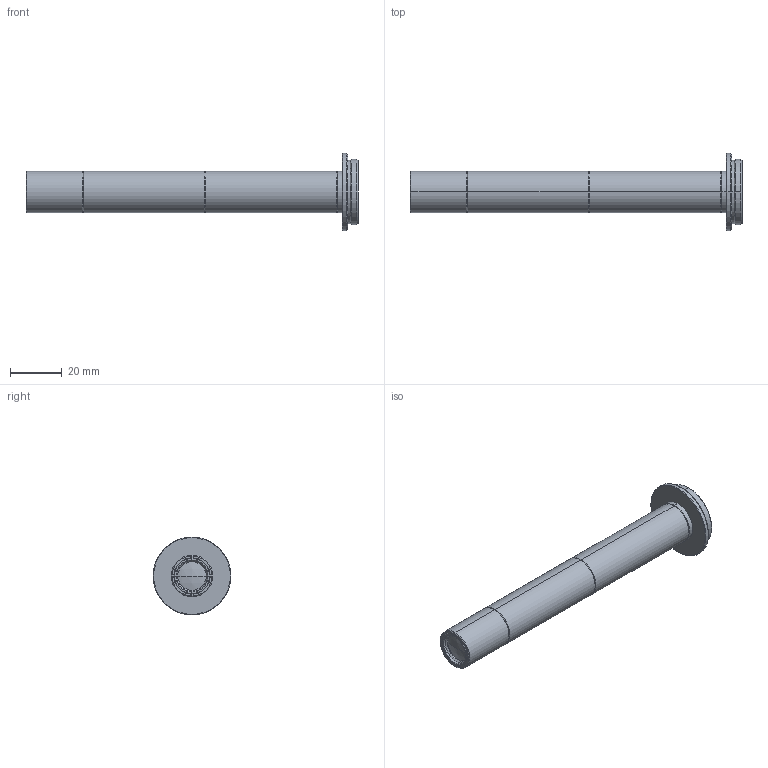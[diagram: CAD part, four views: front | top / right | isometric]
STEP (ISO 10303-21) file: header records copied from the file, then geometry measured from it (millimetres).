
FILE_DESCRIPTION (( 'STEP AP203' ), '1' );
FILE_NAME ('VS-MC2-60.STEP', '2016-07-25T00:23:35', ( 'miura_vst' ), ( '' ), 'SwSTEP 2.0', 'SolidWorks 2016', '' );
FILE_SCHEMA (( 'CONFIG_CONTROL_DESIGN' ));
Length unit declared in the file: millimetre
Products named in the file (1): VS-MC2-60
Bounding box: 127.85 x 30 x 30 mm (x, y, z)
Volume: 26556.9 mm3; surface area: 8307.6 mm2
Topology: 1 solids, 1 shells, 62 faces, 124 edges, 69 vertices
Faces by surface type: cone 34, cylinder 20, plane 6, sphere 2
Entity records: 1667 total; most frequent: DIRECTION 320, CARTESIAN_POINT 256, ORIENTED_EDGE 248, AXIS2_PLACEMENT_3D 133, EDGE_CURVE 124, CIRCLE 70, VERTEX_POINT 69, EDGE_LOOP 67
